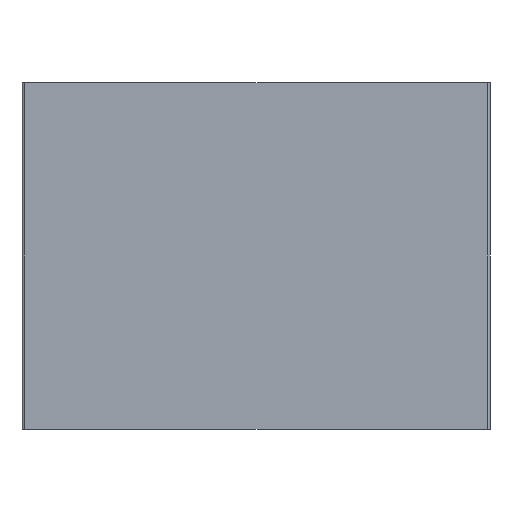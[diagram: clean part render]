
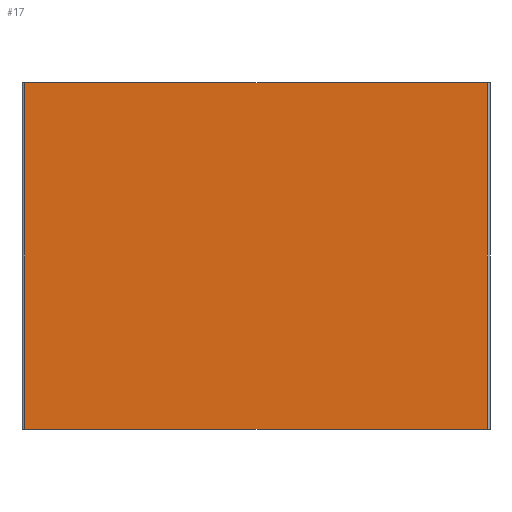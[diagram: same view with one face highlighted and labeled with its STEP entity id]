
A CAD part, left-side view. The second image highlights one B-rep face of the part: STEP entity #17.
In plain terms, the highlighted planar face has unit normal (-1, 0, 0).
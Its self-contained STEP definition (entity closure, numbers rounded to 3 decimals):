
#17 = ADVANCED_FACE('',(#18),#32,.F.);
#18 = FACE_BOUND('',#19,.F.);
#19 = EDGE_LOOP('',(#20,#55,#83,#111));
#20 = ORIENTED_EDGE('',*,*,#21,.F.);
#21 = EDGE_CURVE('',#22,#24,#26,.T.);
#22 = VERTEX_POINT('',#23);
#23 = CARTESIAN_POINT('',(51.,-3.4,103.));
#24 = VERTEX_POINT('',#25);
#25 = CARTESIAN_POINT('',(51.,99.4,103.));
#26 = SURFACE_CURVE('',#27,(#31,#43),.PCURVE_S1.);
#27 = LINE('',#28,#29);
#28 = CARTESIAN_POINT('',(51.,-4.,103.));
#29 = VECTOR('',#30,1.);
#30 = DIRECTION('',(0.,1.,0.));
#31 = PCURVE('',#32,#37);
#32 = PLANE('',#33);
#33 = AXIS2_PLACEMENT_3D('',#34,#35,#36);
#34 = CARTESIAN_POINT('',(51.,-4.,26.));
#35 = DIRECTION('',(1.,0.,0.));
#36 = DIRECTION('',(0.,0.,1.));
#37 = DEFINITIONAL_REPRESENTATION('',(#38),#42);
#38 = LINE('',#39,#40);
#39 = CARTESIAN_POINT('',(77.,0.));
#40 = VECTOR('',#41,1.);
#41 = DIRECTION('',(0.,-1.));
#42 = ( GEOMETRIC_REPRESENTATION_CONTEXT(2) 
PARAMETRIC_REPRESENTATION_CONTEXT() REPRESENTATION_CONTEXT('2D SPACE',''
  ) );
#43 = PCURVE('',#44,#49);
#44 = PLANE('',#45);
#45 = AXIS2_PLACEMENT_3D('',#46,#47,#48);
#46 = CARTESIAN_POINT('',(51.,-4.,103.));
#47 = DIRECTION('',(0.,0.,1.));
#48 = DIRECTION('',(1.,0.,0.));
#49 = DEFINITIONAL_REPRESENTATION('',(#50),#54);
#50 = LINE('',#51,#52);
#51 = CARTESIAN_POINT('',(0.,0.));
#52 = VECTOR('',#53,1.);
#53 = DIRECTION('',(0.,1.));
#54 = ( GEOMETRIC_REPRESENTATION_CONTEXT(2) 
PARAMETRIC_REPRESENTATION_CONTEXT() REPRESENTATION_CONTEXT('2D SPACE',''
  ) );
#55 = ORIENTED_EDGE('',*,*,#56,.F.);
#56 = EDGE_CURVE('',#57,#22,#59,.T.);
#57 = VERTEX_POINT('',#58);
#58 = CARTESIAN_POINT('',(51.,-3.4,26.));
#59 = SURFACE_CURVE('',#60,(#64,#71),.PCURVE_S1.);
#60 = LINE('',#61,#62);
#61 = CARTESIAN_POINT('',(51.,-3.4,26.));
#62 = VECTOR('',#63,1.);
#63 = DIRECTION('',(0.,0.,1.));
#64 = PCURVE('',#32,#65);
#65 = DEFINITIONAL_REPRESENTATION('',(#66),#70);
#66 = LINE('',#67,#68);
#67 = CARTESIAN_POINT('',(0.,-0.6));
#68 = VECTOR('',#69,1.);
#69 = DIRECTION('',(1.,0.));
#70 = ( GEOMETRIC_REPRESENTATION_CONTEXT(2) 
PARAMETRIC_REPRESENTATION_CONTEXT() REPRESENTATION_CONTEXT('2D SPACE',''
  ) );
#71 = PCURVE('',#72,#77);
#72 = CYLINDRICAL_SURFACE('',#73,0.6);
#73 = AXIS2_PLACEMENT_3D('',#74,#75,#76);
#74 = CARTESIAN_POINT('',(51.6,-3.4,26.));
#75 = DIRECTION('',(0.,0.,1.));
#76 = DIRECTION('',(-1.,-0.,0.));
#77 = DEFINITIONAL_REPRESENTATION('',(#78),#82);
#78 = LINE('',#79,#80);
#79 = CARTESIAN_POINT('',(0.,0.));
#80 = VECTOR('',#81,1.);
#81 = DIRECTION('',(0.,1.));
#82 = ( GEOMETRIC_REPRESENTATION_CONTEXT(2) 
PARAMETRIC_REPRESENTATION_CONTEXT() REPRESENTATION_CONTEXT('2D SPACE',''
  ) );
#83 = ORIENTED_EDGE('',*,*,#84,.T.);
#84 = EDGE_CURVE('',#57,#85,#87,.T.);
#85 = VERTEX_POINT('',#86);
#86 = CARTESIAN_POINT('',(51.,99.4,26.));
#87 = SURFACE_CURVE('',#88,(#92,#99),.PCURVE_S1.);
#88 = LINE('',#89,#90);
#89 = CARTESIAN_POINT('',(51.,-4.,26.));
#90 = VECTOR('',#91,1.);
#91 = DIRECTION('',(0.,1.,0.));
#92 = PCURVE('',#32,#93);
#93 = DEFINITIONAL_REPRESENTATION('',(#94),#98);
#94 = LINE('',#95,#96);
#95 = CARTESIAN_POINT('',(0.,0.));
#96 = VECTOR('',#97,1.);
#97 = DIRECTION('',(0.,-1.));
#98 = ( GEOMETRIC_REPRESENTATION_CONTEXT(2) 
PARAMETRIC_REPRESENTATION_CONTEXT() REPRESENTATION_CONTEXT('2D SPACE',''
  ) );
#99 = PCURVE('',#100,#105);
#100 = PLANE('',#101);
#101 = AXIS2_PLACEMENT_3D('',#102,#103,#104);
#102 = CARTESIAN_POINT('',(51.,-4.,26.));
#103 = DIRECTION('',(0.,0.,1.));
#104 = DIRECTION('',(1.,0.,0.));
#105 = DEFINITIONAL_REPRESENTATION('',(#106),#110);
#106 = LINE('',#107,#108);
#107 = CARTESIAN_POINT('',(0.,0.));
#108 = VECTOR('',#109,1.);
#109 = DIRECTION('',(0.,1.));
#110 = ( GEOMETRIC_REPRESENTATION_CONTEXT(2) 
PARAMETRIC_REPRESENTATION_CONTEXT() REPRESENTATION_CONTEXT('2D SPACE',''
  ) );
#111 = ORIENTED_EDGE('',*,*,#112,.T.);
#112 = EDGE_CURVE('',#85,#24,#113,.T.);
#113 = SURFACE_CURVE('',#114,(#118,#125),.PCURVE_S1.);
#114 = LINE('',#115,#116);
#115 = CARTESIAN_POINT('',(51.,99.4,26.));
#116 = VECTOR('',#117,1.);
#117 = DIRECTION('',(0.,0.,1.));
#118 = PCURVE('',#32,#119);
#119 = DEFINITIONAL_REPRESENTATION('',(#120),#124);
#120 = LINE('',#121,#122);
#121 = CARTESIAN_POINT('',(0.,-103.4));
#122 = VECTOR('',#123,1.);
#123 = DIRECTION('',(1.,0.));
#124 = ( GEOMETRIC_REPRESENTATION_CONTEXT(2) 
PARAMETRIC_REPRESENTATION_CONTEXT() REPRESENTATION_CONTEXT('2D SPACE',''
  ) );
#125 = PCURVE('',#126,#131);
#126 = CYLINDRICAL_SURFACE('',#127,0.6);
#127 = AXIS2_PLACEMENT_3D('',#128,#129,#130);
#128 = CARTESIAN_POINT('',(51.6,99.4,26.));
#129 = DIRECTION('',(0.,0.,1.));
#130 = DIRECTION('',(-1.,-0.,0.));
#131 = DEFINITIONAL_REPRESENTATION('',(#132),#136);
#132 = LINE('',#133,#134);
#133 = CARTESIAN_POINT('',(-0.,0.));
#134 = VECTOR('',#135,1.);
#135 = DIRECTION('',(-0.,1.));
#136 = ( GEOMETRIC_REPRESENTATION_CONTEXT(2) 
PARAMETRIC_REPRESENTATION_CONTEXT() REPRESENTATION_CONTEXT('2D SPACE',''
  ) );
